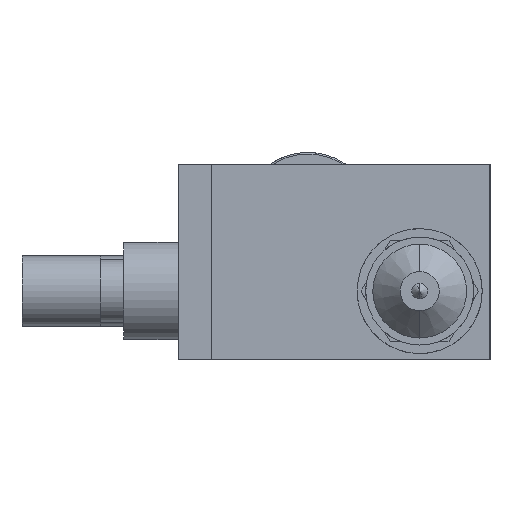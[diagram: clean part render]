
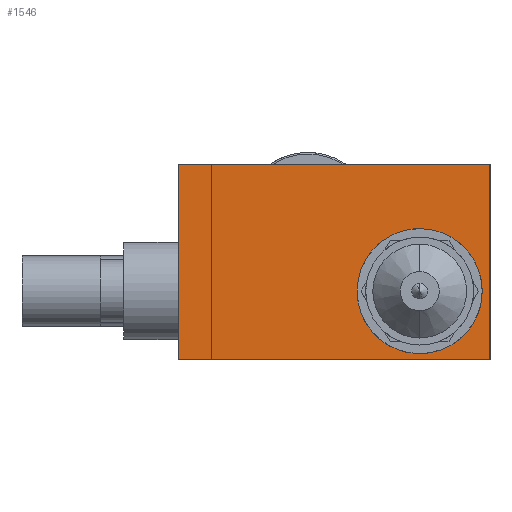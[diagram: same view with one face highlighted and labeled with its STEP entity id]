
A CAD part, left-side view. The second image highlights one B-rep face of the part: STEP entity #1546.
In plain terms, the highlighted planar face has unit normal (-1, 0, 0).
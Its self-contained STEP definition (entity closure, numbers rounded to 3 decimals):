
#37 = ORIENTED_EDGE ( 'NONE', *, *, #6302, .F. ) ;
#144 = ORIENTED_EDGE ( 'NONE', *, *, #233, .F. ) ;
#233 = EDGE_CURVE ( 'NONE', #7447, #1307, #3627, .T. ) ;
#245 = LINE ( 'NONE', #1891, #4507 ) ;
#456 = CARTESIAN_POINT ( 'NONE',  ( -23., 19.95, 25. ) ) ;
#734 = ORIENTED_EDGE ( 'NONE', *, *, #9558, .T. ) ;
#1023 = CARTESIAN_POINT ( 'NONE',  ( -23., -18.456, 8.75 ) ) ;
#1051 = CARTESIAN_POINT ( 'NONE',  ( -23., 19.95, 25. ) ) ;
#1307 = VERTEX_POINT ( 'NONE', #9732 ) ;
#1336 = VECTOR ( 'NONE', #7683, 1000. ) ;
#1546 = ADVANCED_FACE ( 'NONE', ( #5933, #4372 ), #10068, .F. ) ;
#1620 = DIRECTION ( 'NONE',  ( 0., -0.5, -0.866 ) ) ;
#1678 = DIRECTION ( 'NONE',  ( 0., 0., -1. ) ) ;
#1700 = EDGE_LOOP ( 'NONE', ( #734, #7605, #37, #2311 ) ) ;
#1772 = VECTOR ( 'NONE', #6424, 1000. ) ;
#1891 = CARTESIAN_POINT ( 'NONE',  ( -23., -19.95, 25. ) ) ;
#2305 = DIRECTION ( 'NONE',  ( 0., -1., 0. ) ) ;
#2311 = ORIENTED_EDGE ( 'NONE', *, *, #5144, .T. ) ;
#2606 = ORIENTED_EDGE ( 'NONE', *, *, #4141, .F. ) ;
#2637 = EDGE_CURVE ( 'NONE', #9525, #9227, #8444, .T. ) ;
#2683 = LINE ( 'NONE', #1051, #8951 ) ;
#2753 = DIRECTION ( 'NONE',  ( 0., -1., 0. ) ) ;
#2844 = VERTEX_POINT ( 'NONE', #5172 ) ;
#3070 = VECTOR ( 'NONE', #8518, 1000. ) ;
#3073 = VECTOR ( 'NONE', #2753, 1000. ) ;
#3463 = CARTESIAN_POINT ( 'NONE',  ( -23., -3.444, 8.75 ) ) ;
#3618 = LINE ( 'NONE', #5984, #3073 ) ;
#3627 = LINE ( 'NONE', #6902, #1772 ) ;
#3735 = ORIENTED_EDGE ( 'NONE', *, *, #2637, .F. ) ;
#3750 = VECTOR ( 'NONE', #5494, 1000. ) ;
#4141 = EDGE_CURVE ( 'NONE', #1307, #6809, #5076, .T. ) ;
#4270 = CARTESIAN_POINT ( 'NONE',  ( -23., -18.456, 8.75 ) ) ;
#4333 = DIRECTION ( 'NONE',  ( 0., 0.5, 0.866 ) ) ;
#4372 = FACE_BOUND ( 'NONE', #5789, .T. ) ;
#4507 = VECTOR ( 'NONE', #7662, 1000. ) ;
#4630 = VERTEX_POINT ( 'NONE', #9114 ) ;
#5076 = LINE ( 'NONE', #3463, #10715 ) ;
#5078 = CARTESIAN_POINT ( 'NONE',  ( -23., 19.95, 25. ) ) ;
#5144 = EDGE_CURVE ( 'NONE', #7758, #6439, #7870, .T. ) ;
#5172 = CARTESIAN_POINT ( 'NONE',  ( -23., -19.95, 0. ) ) ;
#5370 = LINE ( 'NONE', #6123, #3070 ) ;
#5379 = EDGE_CURVE ( 'NONE', #5416, #9525, #5370, .T. ) ;
#5416 = VERTEX_POINT ( 'NONE', #9391 ) ;
#5494 = DIRECTION ( 'NONE',  ( 0., 0., -1. ) ) ;
#5532 = CARTESIAN_POINT ( 'NONE',  ( -23., 19.95, 25. ) ) ;
#5736 = EDGE_CURVE ( 'NONE', #9227, #7447, #6561, .T. ) ;
#5789 = EDGE_LOOP ( 'NONE', ( #9197, #9312, #2606, #144, #8948, #3735 ) ) ;
#5933 = FACE_OUTER_BOUND ( 'NONE', #1700, .T. ) ;
#5984 = CARTESIAN_POINT ( 'NONE',  ( -23., 19.95, 0. ) ) ;
#6123 = CARTESIAN_POINT ( 'NONE',  ( -23., -14.703, 2.25 ) ) ;
#6145 = LINE ( 'NONE', #9569, #9110 ) ;
#6302 = EDGE_CURVE ( 'NONE', #7758, #4630, #2683, .T. ) ;
#6424 = DIRECTION ( 'NONE',  ( 0., 0.5, -0.866 ) ) ;
#6439 = VERTEX_POINT ( 'NONE', #8844 ) ;
#6561 = LINE ( 'NONE', #6870, #1336 ) ;
#6809 = VERTEX_POINT ( 'NONE', #8936 ) ;
#6870 = CARTESIAN_POINT ( 'NONE',  ( -23., -14.703, 15.25 ) ) ;
#6902 = CARTESIAN_POINT ( 'NONE',  ( -23., -7.197, 15.25 ) ) ;
#6907 = CARTESIAN_POINT ( 'NONE',  ( -23., -14.703, 15.25 ) ) ;
#7285 = EDGE_CURVE ( 'NONE', #4630, #2844, #245, .T. ) ;
#7379 = AXIS2_PLACEMENT_3D ( 'NONE', #5078, #7663, #1678 ) ;
#7447 = VERTEX_POINT ( 'NONE', #9996 ) ;
#7605 = ORIENTED_EDGE ( 'NONE', *, *, #7285, .F. ) ;
#7662 = DIRECTION ( 'NONE',  ( 0., 0., -1. ) ) ;
#7663 = DIRECTION ( 'NONE',  ( 1., 0., 0. ) ) ;
#7683 = DIRECTION ( 'NONE',  ( 0., 1., 0. ) ) ;
#7758 = VERTEX_POINT ( 'NONE', #5532 ) ;
#7861 = DIRECTION ( 'NONE',  ( 0., -1., 0. ) ) ;
#7870 = LINE ( 'NONE', #456, #3750 ) ;
#8434 = EDGE_CURVE ( 'NONE', #6809, #5416, #6145, .T. ) ;
#8444 = LINE ( 'NONE', #1023, #10004 ) ;
#8518 = DIRECTION ( 'NONE',  ( 0., -0.5, 0.866 ) ) ;
#8844 = CARTESIAN_POINT ( 'NONE',  ( -23., 19.95, 0. ) ) ;
#8936 = CARTESIAN_POINT ( 'NONE',  ( -23., -7.197, 2.25 ) ) ;
#8948 = ORIENTED_EDGE ( 'NONE', *, *, #5736, .F. ) ;
#8951 = VECTOR ( 'NONE', #7861, 1000. ) ;
#9110 = VECTOR ( 'NONE', #2305, 1000. ) ;
#9114 = CARTESIAN_POINT ( 'NONE',  ( -23., -19.95, 25. ) ) ;
#9197 = ORIENTED_EDGE ( 'NONE', *, *, #5379, .F. ) ;
#9227 = VERTEX_POINT ( 'NONE', #6907 ) ;
#9312 = ORIENTED_EDGE ( 'NONE', *, *, #8434, .F. ) ;
#9391 = CARTESIAN_POINT ( 'NONE',  ( -23., -14.703, 2.25 ) ) ;
#9525 = VERTEX_POINT ( 'NONE', #4270 ) ;
#9558 = EDGE_CURVE ( 'NONE', #6439, #2844, #3618, .T. ) ;
#9569 = CARTESIAN_POINT ( 'NONE',  ( -23., -7.197, 2.25 ) ) ;
#9732 = CARTESIAN_POINT ( 'NONE',  ( -23., -3.444, 8.75 ) ) ;
#9996 = CARTESIAN_POINT ( 'NONE',  ( -23., -7.197, 15.25 ) ) ;
#10004 = VECTOR ( 'NONE', #4333, 1000. ) ;
#10068 = PLANE ( 'NONE',  #7379 ) ;
#10715 = VECTOR ( 'NONE', #1620, 1000. ) ;
